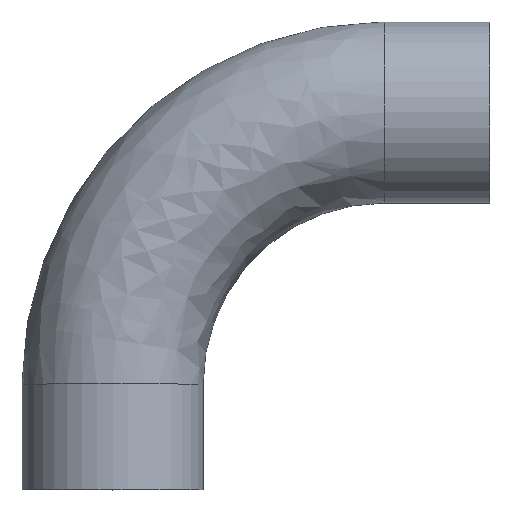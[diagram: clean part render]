
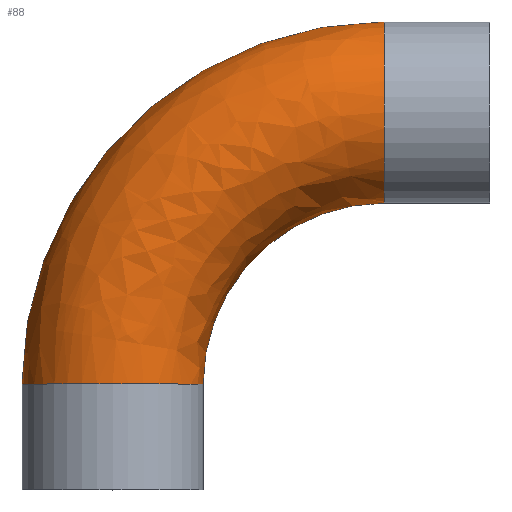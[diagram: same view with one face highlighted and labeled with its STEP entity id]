
A CAD part, top view. The second image highlights one B-rep face of the part: STEP entity #88.
In plain terms, the highlighted free-form (B-spline) face has degree [3, 3] with [4, 4] control points.
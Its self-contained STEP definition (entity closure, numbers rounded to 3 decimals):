
#4 = EDGE_CURVE ( 'NONE', #429, #241, #341, .T. ) ;
#8 = CARTESIAN_POINT ( 'NONE',  ( 114.3, 196.9, 0. ) ) ;
#9 = DIRECTION ( 'NONE',  ( -1., 0., 0. ) ) ;
#21 = DIRECTION ( 'NONE',  ( 0., 1., 0. ) ) ;
#22 = ORIENTED_EDGE ( 'NONE', *, *, #4, .F. ) ;
#28 = DIRECTION ( 'NONE',  ( -1., 0., 0. ) ) ;
#33 = CARTESIAN_POINT ( 'NONE',  ( 114.3, 44.5, 0. ) ) ;
#49 = DIRECTION ( 'NONE',  ( 0., 0., -1. ) ) ;
#80 = CIRCLE ( 'NONE', #376, 38.1 ) ;
#88 = ADVANCED_FACE ( 'NONE', ( #108 ), #405, .T. ) ;
#94 = DIRECTION ( 'NONE',  ( -1., 0., 0. ) ) ;
#108 = FACE_OUTER_BOUND ( 'NONE', #320, .T. ) ;
#115 = VERTEX_POINT ( 'NONE', #248 ) ;
#132 = EDGE_CURVE ( 'NONE', #343, #115, #194, .T. ) ;
#139 = ORIENTED_EDGE ( 'NONE', *, *, #297, .T. ) ;
#142 = CARTESIAN_POINT ( 'NONE',  ( 0., 44.5, 0. ) ) ;
#144 = CARTESIAN_POINT ( 'NONE',  ( 69.663, 120.7, 0. ) ) ;
#151 = CIRCLE ( 'NONE', #436, 38.1 ) ;
#181 = CARTESIAN_POINT ( 'NONE',  ( 114.3, 120.7, 0. ) ) ;
#194 = CIRCLE ( 'NONE', #304, 76.2 ) ;
#195 = ORIENTED_EDGE ( 'NONE', *, *, #132, .T. ) ;
#201 = CARTESIAN_POINT ( 'NONE',  ( -38.1, 44.5, 0. ) ) ;
#203 = CARTESIAN_POINT ( 'NONE',  ( 114.3, 196.9, 76.2 ) ) ;
#236 = CARTESIAN_POINT ( 'NONE',  ( 38.1, 89.137, 0. ) ) ;
#239 = CARTESIAN_POINT ( 'NONE',  ( 38.1, 44.5, 76.2 ) ) ;
#240 = CARTESIAN_POINT ( 'NONE',  ( 25.026, 196.9, 76.2 ) ) ;
#241 = VERTEX_POINT ( 'NONE', #440 ) ;
#248 = CARTESIAN_POINT ( 'NONE',  ( 114.3, 120.7, 0. ) ) ;
#270 = CARTESIAN_POINT ( 'NONE',  ( -38.1, 44.5, 76.2 ) ) ;
#292 = AXIS2_PLACEMENT_3D ( 'NONE', #418, #49, #94 ) ;
#294 = CARTESIAN_POINT ( 'NONE',  ( -38.1, 133.774, 76.2 ) ) ;
#297 = EDGE_CURVE ( 'NONE', #115, #241, #151, .T. ) ;
#299 = DIRECTION ( 'NONE',  ( -1., 0., 0. ) ) ;
#302 = DIRECTION ( 'NONE',  ( 0., 1., 0. ) ) ;
#304 = AXIS2_PLACEMENT_3D ( 'NONE', #33, #374, #9 ) ;
#311 = CARTESIAN_POINT ( 'NONE',  ( 114.3, 158.8, 0. ) ) ;
#320 = EDGE_LOOP ( 'NONE', ( #361, #195, #139, #22 ) ) ;
#328 = CARTESIAN_POINT ( 'NONE',  ( 38.1, 44.5, 0. ) ) ;
#338 = EDGE_CURVE ( 'NONE', #429, #343, #80, .T. ) ;
#341 = CIRCLE ( 'NONE', #292, 152.4 ) ;
#343 = VERTEX_POINT ( 'NONE', #328 ) ;
#361 = ORIENTED_EDGE ( 'NONE', *, *, #338, .T. ) ;
#372 = CARTESIAN_POINT ( 'NONE',  ( 25.026, 196.9, 0. ) ) ;
#374 = DIRECTION ( 'NONE',  ( 0., 0., -1. ) ) ;
#376 = AXIS2_PLACEMENT_3D ( 'NONE', #142, #21, #28 ) ;
#399 = CARTESIAN_POINT ( 'NONE',  ( -38.1, 133.774, 0. ) ) ;
#400 = CARTESIAN_POINT ( 'NONE',  ( -38.1, 44.5, 0. ) ) ;
#405 =( BOUNDED_SURFACE ( )  B_SPLINE_SURFACE ( 3, 3, ( 
 ( #400, #399, #372, #8 ),
 ( #270, #294, #240, #203 ),
 ( #239, #438, #442, #453 ),
 ( #412, #236, #144, #181 ) ),
 .UNSPECIFIED., .F., .F., .F. ) 
 B_SPLINE_SURFACE_WITH_KNOTS ( ( 4, 4 ),
 ( 4, 4 ),
 ( 0., 1. ),
 ( 0., 1. ),
 .UNSPECIFIED. ) 
 GEOMETRIC_REPRESENTATION_ITEM ( )  RATIONAL_B_SPLINE_SURFACE ( (
 ( 1., 0.805, 0.805, 1.),
 ( 0.333, 0.268, 0.268, 0.333),
 ( 0.333, 0.268, 0.268, 0.333),
 ( 1., 0.805, 0.805, 1.) ) ) 
 REPRESENTATION_ITEM ( '' )  SURFACE ( )  );
#412 = CARTESIAN_POINT ( 'NONE',  ( 38.1, 44.5, 0. ) ) ;
#418 = CARTESIAN_POINT ( 'NONE',  ( 114.3, 44.5, 0. ) ) ;
#429 = VERTEX_POINT ( 'NONE', #201 ) ;
#436 = AXIS2_PLACEMENT_3D ( 'NONE', #311, #299, #302 ) ;
#438 = CARTESIAN_POINT ( 'NONE',  ( 38.1, 89.137, 76.2 ) ) ;
#440 = CARTESIAN_POINT ( 'NONE',  ( 114.3, 196.9, 0. ) ) ;
#442 = CARTESIAN_POINT ( 'NONE',  ( 69.663, 120.7, 76.2 ) ) ;
#453 = CARTESIAN_POINT ( 'NONE',  ( 114.3, 120.7, 76.2 ) ) ;
